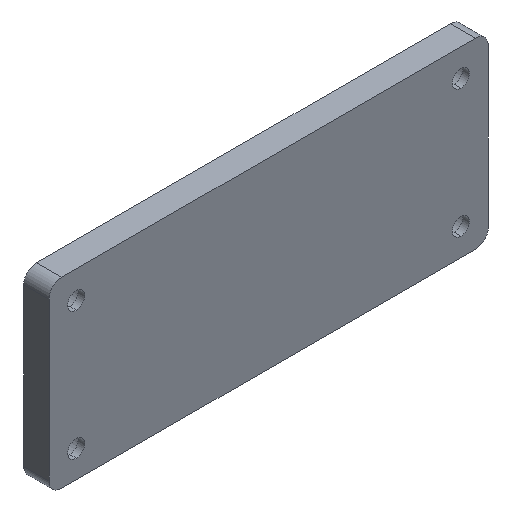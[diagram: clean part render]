
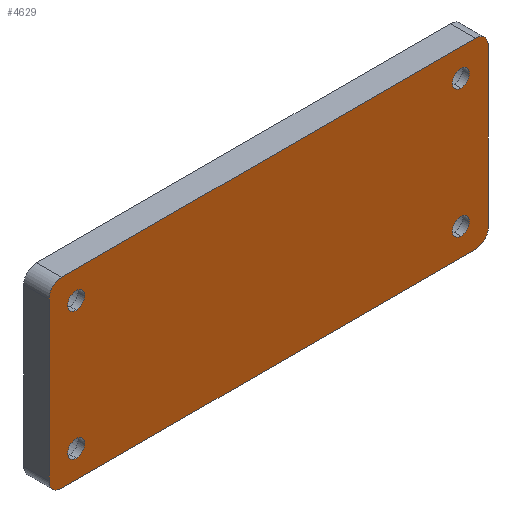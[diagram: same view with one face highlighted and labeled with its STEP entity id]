
A CAD part, isometric view. The second image highlights one B-rep face of the part: STEP entity #4629.
In plain terms, the highlighted planar face has unit normal (0, -1, 0).
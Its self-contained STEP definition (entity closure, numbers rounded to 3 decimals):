
#14 = VERTEX_POINT ( 'NONE', #2579 ) ;
#22 = AXIS2_PLACEMENT_3D ( 'NONE', #4754, #4811, #7269 ) ;
#34 = VECTOR ( 'NONE', #7546, 1000. ) ;
#37 = EDGE_CURVE ( 'NONE', #10026, #13251, #8724, .T. ) ;
#48 = AXIS2_PLACEMENT_3D ( 'NONE', #5386, #13495, #7601 ) ;
#180 = AXIS2_PLACEMENT_3D ( 'NONE', #8362, #2608, #9665 ) ;
#291 = DIRECTION ( 'NONE',  ( 0., 0., 1. ) ) ;
#506 = DIRECTION ( 'NONE',  ( 0., 0., 1. ) ) ;
#600 = LINE ( 'NONE', #1938, #7265 ) ;
#691 = VECTOR ( 'NONE', #13750, 1000. ) ;
#722 = EDGE_LOOP ( 'NONE', ( #8404, #8443 ) ) ;
#749 = CARTESIAN_POINT ( 'NONE',  ( 82., 0., 31.2 ) ) ;
#859 = AXIS2_PLACEMENT_3D ( 'NONE', #10703, #1330, #10855 ) ;
#1040 = CIRCLE ( 'NONE', #12997, 5. ) ;
#1149 = CARTESIAN_POINT ( 'NONE',  ( -82., 0., 36.2 ) ) ;
#1330 = DIRECTION ( 'NONE',  ( 0., 1., 0. ) ) ;
#1425 = EDGE_CURVE ( 'NONE', #11296, #14, #15164, .T. ) ;
#1539 = EDGE_CURVE ( 'NONE', #13289, #5157, #14591, .T. ) ;
#1716 = CARTESIAN_POINT ( 'NONE',  ( 76.2, 0., -22.022 ) ) ;
#1903 = CARTESIAN_POINT ( 'NONE',  ( -76.2, 0., -25.4 ) ) ;
#1938 = CARTESIAN_POINT ( 'NONE',  ( -55.375, 0., -36.2 ) ) ;
#2175 = CIRCLE ( 'NONE', #8057, 3.378 ) ;
#2346 = LINE ( 'NONE', #9028, #691 ) ;
#2483 = FACE_BOUND ( 'NONE', #11563, .T. ) ;
#2508 = CARTESIAN_POINT ( 'NONE',  ( 87., 0., 31.2 ) ) ;
#2579 = CARTESIAN_POINT ( 'NONE',  ( -76.2, 0., -28.778 ) ) ;
#2608 = DIRECTION ( 'NONE',  ( 0., 1., 0. ) ) ;
#2643 = DIRECTION ( 'NONE',  ( 0., 1., 0. ) ) ;
#2774 = EDGE_CURVE ( 'NONE', #14522, #7538, #1040, .T. ) ;
#2862 = EDGE_CURVE ( 'NONE', #14120, #10020, #9580, .T. ) ;
#2887 = DIRECTION ( 'NONE',  ( 0., 1., 0. ) ) ;
#2967 = CARTESIAN_POINT ( 'NONE',  ( 0., 0., 0. ) ) ;
#3106 = DIRECTION ( 'NONE',  ( 0., 1., 0. ) ) ;
#3177 = ORIENTED_EDGE ( 'NONE', *, *, #10954, .F. ) ;
#3261 = AXIS2_PLACEMENT_3D ( 'NONE', #1903, #2643, #291 ) ;
#3274 = CARTESIAN_POINT ( 'NONE',  ( 87., 0., 36.2 ) ) ;
#3689 = ORIENTED_EDGE ( 'NONE', *, *, #7224, .T. ) ;
#3891 = ORIENTED_EDGE ( 'NONE', *, *, #9883, .T. ) ;
#3916 = ORIENTED_EDGE ( 'NONE', *, *, #1539, .F. ) ;
#3929 = ORIENTED_EDGE ( 'NONE', *, *, #12487, .T. ) ;
#3940 = CARTESIAN_POINT ( 'NONE',  ( 76.2, 0., -28.778 ) ) ;
#3957 = VERTEX_POINT ( 'NONE', #6418 ) ;
#4149 = DIRECTION ( 'NONE',  ( 0., 0., 1. ) ) ;
#4169 = DIRECTION ( 'NONE',  ( 0., -1., 0. ) ) ;
#4391 = CIRCLE ( 'NONE', #4775, 5. ) ;
#4511 = VERTEX_POINT ( 'NONE', #3940 ) ;
#4629 = ADVANCED_FACE ( 'NONE', ( #2483, #7878, #12859, #13047, #11003 ), #10043, .F. ) ;
#4754 = CARTESIAN_POINT ( 'NONE',  ( -76.2, 0., 25.4 ) ) ;
#4760 = ORIENTED_EDGE ( 'NONE', *, *, #13736, .F. ) ;
#4775 = AXIS2_PLACEMENT_3D ( 'NONE', #749, #4169, #8957 ) ;
#4811 = DIRECTION ( 'NONE',  ( 0., 1., 0. ) ) ;
#5077 = ORIENTED_EDGE ( 'NONE', *, *, #8355, .T. ) ;
#5157 = VERTEX_POINT ( 'NONE', #7118 ) ;
#5344 = DIRECTION ( 'NONE',  ( 0., 1., 0. ) ) ;
#5386 = CARTESIAN_POINT ( 'NONE',  ( 76.2, 0., -25.4 ) ) ;
#5482 = ORIENTED_EDGE ( 'NONE', *, *, #1425, .T. ) ;
#5498 = DIRECTION ( 'NONE',  ( 0., -1., 0. ) ) ;
#5570 = DIRECTION ( 'NONE',  ( -1., 0., 0. ) ) ;
#5602 = CARTESIAN_POINT ( 'NONE',  ( 82., 0., -31.2 ) ) ;
#5752 = CIRCLE ( 'NONE', #3261, 3.378 ) ;
#5894 = CIRCLE ( 'NONE', #12395, 3.378 ) ;
#6050 = CARTESIAN_POINT ( 'NONE',  ( -87., 0., 31.2 ) ) ;
#6418 = CARTESIAN_POINT ( 'NONE',  ( 82., 0., 36.2 ) ) ;
#6492 = DIRECTION ( 'NONE',  ( 0., 0., 1. ) ) ;
#6711 = DIRECTION ( 'NONE',  ( 0., 0., 1. ) ) ;
#6821 = DIRECTION ( 'NONE',  ( 0., 0., 1. ) ) ;
#6993 = ORIENTED_EDGE ( 'NONE', *, *, #37, .T. ) ;
#7118 = CARTESIAN_POINT ( 'NONE',  ( 87., 0., -31.2 ) ) ;
#7224 = EDGE_CURVE ( 'NONE', #14, #11296, #5752, .T. ) ;
#7265 = VECTOR ( 'NONE', #5570, 1000. ) ;
#7269 = DIRECTION ( 'NONE',  ( 0., 0., 1. ) ) ;
#7459 = CIRCLE ( 'NONE', #48, 3.378 ) ;
#7538 = VERTEX_POINT ( 'NONE', #12076 ) ;
#7546 = DIRECTION ( 'NONE',  ( 0., 0., 1. ) ) ;
#7560 = VERTEX_POINT ( 'NONE', #14446 ) ;
#7601 = DIRECTION ( 'NONE',  ( 0., 0., 1. ) ) ;
#7645 = DIRECTION ( 'NONE',  ( 0., 0., 1. ) ) ;
#7710 = CARTESIAN_POINT ( 'NONE',  ( -87., 0., -36.2 ) ) ;
#7878 = FACE_BOUND ( 'NONE', #13345, .T. ) ;
#7989 = CIRCLE ( 'NONE', #9093, 5. ) ;
#8001 = AXIS2_PLACEMENT_3D ( 'NONE', #2967, #13448, #4149 ) ;
#8057 = AXIS2_PLACEMENT_3D ( 'NONE', #10182, #3106, #6492 ) ;
#8128 = ORIENTED_EDGE ( 'NONE', *, *, #2862, .T. ) ;
#8355 = EDGE_CURVE ( 'NONE', #13251, #10026, #5894, .T. ) ;
#8362 = CARTESIAN_POINT ( 'NONE',  ( -76.2, 0., -25.4 ) ) ;
#8404 = ORIENTED_EDGE ( 'NONE', *, *, #12867, .T. ) ;
#8443 = ORIENTED_EDGE ( 'NONE', *, *, #9312, .T. ) ;
#8509 = VECTOR ( 'NONE', #14913, 1000. ) ;
#8561 = EDGE_LOOP ( 'NONE', ( #5482, #3689 ) ) ;
#8724 = CIRCLE ( 'NONE', #859, 3.378 ) ;
#8948 = ORIENTED_EDGE ( 'NONE', *, *, #11164, .T. ) ;
#8957 = DIRECTION ( 'NONE',  ( 0., 0., 1. ) ) ;
#9028 = CARTESIAN_POINT ( 'NONE',  ( -55.375, 0., 36.2 ) ) ;
#9079 = CARTESIAN_POINT ( 'NONE',  ( -76.2, 0., -22.022 ) ) ;
#9093 = AXIS2_PLACEMENT_3D ( 'NONE', #13507, #11090, #506 ) ;
#9117 = CARTESIAN_POINT ( 'NONE',  ( -87., 0., -31.2 ) ) ;
#9312 = EDGE_CURVE ( 'NONE', #4511, #11825, #2175, .T. ) ;
#9314 = CARTESIAN_POINT ( 'NONE',  ( -76.2, 0., 28.778 ) ) ;
#9517 = LINE ( 'NONE', #7710, #34 ) ;
#9580 = CIRCLE ( 'NONE', #13979, 3.378 ) ;
#9633 = CARTESIAN_POINT ( 'NONE',  ( 76.2, 0., 28.778 ) ) ;
#9665 = DIRECTION ( 'NONE',  ( 0., 0., 1. ) ) ;
#9759 = EDGE_LOOP ( 'NONE', ( #4760, #12318, #10912, #3929, #3916, #3891, #3177, #9789 ) ) ;
#9789 = ORIENTED_EDGE ( 'NONE', *, *, #15319, .T. ) ;
#9883 = EDGE_CURVE ( 'NONE', #13289, #3957, #4391, .T. ) ;
#10020 = VERTEX_POINT ( 'NONE', #9314 ) ;
#10026 = VERTEX_POINT ( 'NONE', #13825 ) ;
#10043 = PLANE ( 'NONE',  #8001 ) ;
#10117 = CIRCLE ( 'NONE', #22, 3.378 ) ;
#10182 = CARTESIAN_POINT ( 'NONE',  ( 76.2, 0., -25.4 ) ) ;
#10196 = CARTESIAN_POINT ( 'NONE',  ( -82., 0., -31.2 ) ) ;
#10589 = VERTEX_POINT ( 'NONE', #6050 ) ;
#10703 = CARTESIAN_POINT ( 'NONE',  ( 76.2, 0., 25.4 ) ) ;
#10855 = DIRECTION ( 'NONE',  ( 0., 0., 1. ) ) ;
#10912 = ORIENTED_EDGE ( 'NONE', *, *, #13478, .F. ) ;
#10954 = EDGE_CURVE ( 'NONE', #12078, #3957, #2346, .T. ) ;
#11003 = FACE_OUTER_BOUND ( 'NONE', #9759, .T. ) ;
#11090 = DIRECTION ( 'NONE',  ( 0., -1., 0. ) ) ;
#11164 = EDGE_CURVE ( 'NONE', #10020, #14120, #10117, .T. ) ;
#11296 = VERTEX_POINT ( 'NONE', #9079 ) ;
#11563 = EDGE_LOOP ( 'NONE', ( #5077, #6993 ) ) ;
#11703 = DIRECTION ( 'NONE',  ( 0., -1., 0. ) ) ;
#11825 = VERTEX_POINT ( 'NONE', #1716 ) ;
#12076 = CARTESIAN_POINT ( 'NONE',  ( -82., 0., -36.2 ) ) ;
#12078 = VERTEX_POINT ( 'NONE', #1149 ) ;
#12318 = ORIENTED_EDGE ( 'NONE', *, *, #2774, .T. ) ;
#12395 = AXIS2_PLACEMENT_3D ( 'NONE', #13538, #2887, #7645 ) ;
#12421 = CARTESIAN_POINT ( 'NONE',  ( -76.2, 0., 25.4 ) ) ;
#12487 = EDGE_CURVE ( 'NONE', #7560, #5157, #13393, .T. ) ;
#12518 = DIRECTION ( 'NONE',  ( 0., 0., 1. ) ) ;
#12848 = AXIS2_PLACEMENT_3D ( 'NONE', #5602, #11703, #6821 ) ;
#12859 = FACE_BOUND ( 'NONE', #8561, .T. ) ;
#12867 = EDGE_CURVE ( 'NONE', #11825, #4511, #7459, .T. ) ;
#12997 = AXIS2_PLACEMENT_3D ( 'NONE', #10196, #5498, #6711 ) ;
#13047 = FACE_BOUND ( 'NONE', #722, .T. ) ;
#13251 = VERTEX_POINT ( 'NONE', #9633 ) ;
#13289 = VERTEX_POINT ( 'NONE', #2508 ) ;
#13345 = EDGE_LOOP ( 'NONE', ( #8948, #8128 ) ) ;
#13393 = CIRCLE ( 'NONE', #12848, 5. ) ;
#13448 = DIRECTION ( 'NONE',  ( 0., 1., 0. ) ) ;
#13478 = EDGE_CURVE ( 'NONE', #7560, #7538, #600, .T. ) ;
#13495 = DIRECTION ( 'NONE',  ( 0., 1., 0. ) ) ;
#13507 = CARTESIAN_POINT ( 'NONE',  ( -82., 0., 31.2 ) ) ;
#13538 = CARTESIAN_POINT ( 'NONE',  ( 76.2, 0., 25.4 ) ) ;
#13736 = EDGE_CURVE ( 'NONE', #14522, #10589, #9517, .T. ) ;
#13750 = DIRECTION ( 'NONE',  ( 1., 0., 0. ) ) ;
#13825 = CARTESIAN_POINT ( 'NONE',  ( 76.2, 0., 22.022 ) ) ;
#13979 = AXIS2_PLACEMENT_3D ( 'NONE', #12421, #5344, #12518 ) ;
#14120 = VERTEX_POINT ( 'NONE', #14326 ) ;
#14326 = CARTESIAN_POINT ( 'NONE',  ( -76.2, 0., 22.022 ) ) ;
#14446 = CARTESIAN_POINT ( 'NONE',  ( 82., 0., -36.2 ) ) ;
#14522 = VERTEX_POINT ( 'NONE', #9117 ) ;
#14591 = LINE ( 'NONE', #3274, #8509 ) ;
#14913 = DIRECTION ( 'NONE',  ( 0., 0., -1. ) ) ;
#15164 = CIRCLE ( 'NONE', #180, 3.378 ) ;
#15319 = EDGE_CURVE ( 'NONE', #12078, #10589, #7989, .T. ) ;
